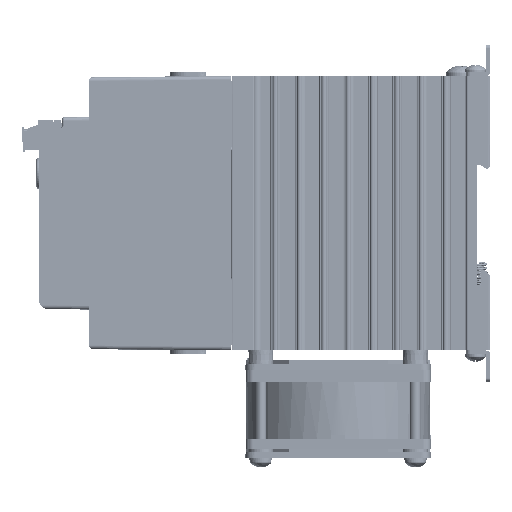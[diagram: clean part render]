
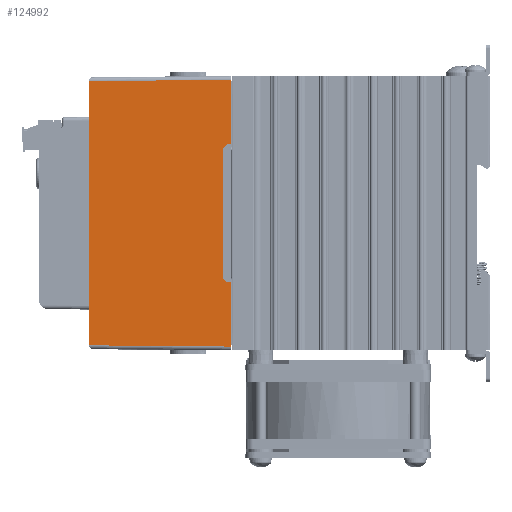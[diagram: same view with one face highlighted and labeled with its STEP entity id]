
A CAD part, left-side view. The second image highlights one B-rep face of the part: STEP entity #124992.
In plain terms, the highlighted planar face has unit normal (-1, 0.009, 0) as drawn and (-1, 0, 0.009) by its records, which use the part's own axes.
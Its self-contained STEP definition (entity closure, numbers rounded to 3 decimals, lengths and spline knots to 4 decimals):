
#6003=PLANE('',#134307);
#11747=FACE_OUTER_BOUND('',#18718,.T.);
#18718=EDGE_LOOP('',(#105314,#105315,#105316,#105317,#105318,#105319,#105320,
#105321,#105322,#105323));
#33200=LINE('',#217305,#46573);
#33995=LINE('',#219275,#47368);
#33998=LINE('',#219280,#47371);
#34000=LINE('',#219285,#47373);
#34006=LINE('',#219296,#47379);
#34010=LINE('',#219304,#47383);
#34018=LINE('',#219324,#47391);
#34019=LINE('',#219326,#47392);
#34020=LINE('',#219328,#47393);
#34021=LINE('',#219329,#47394);
#46573=VECTOR('',#157980,0.3937);
#47368=VECTOR('',#159833,0.3937);
#47371=VECTOR('',#159838,0.3937);
#47373=VECTOR('',#159842,0.3937);
#47379=VECTOR('',#159852,0.3937);
#47383=VECTOR('',#159860,0.3937);
#47391=VECTOR('',#159880,0.3937);
#47392=VECTOR('',#159883,0.3937);
#47393=VECTOR('',#159884,0.3937);
#47394=VECTOR('',#159885,0.3937);
#59070=VERTEX_POINT('',#217302);
#59071=VERTEX_POINT('',#217304);
#59614=VERTEX_POINT('',#219272);
#59615=VERTEX_POINT('',#219274);
#59616=VERTEX_POINT('',#219278);
#59617=VERTEX_POINT('',#219282);
#59618=VERTEX_POINT('',#219284);
#59621=VERTEX_POINT('',#219294);
#59629=VERTEX_POINT('',#219322);
#59630=VERTEX_POINT('',#219327);
#74745=EDGE_CURVE('',#59071,#59070,#33200,.T.);
#75699=EDGE_CURVE('',#59615,#59614,#33995,.T.);
#75702=EDGE_CURVE('',#59614,#59616,#33998,.T.);
#75704=EDGE_CURVE('',#59618,#59617,#34000,.T.);
#75710=EDGE_CURVE('',#59616,#59621,#34006,.T.);
#75714=EDGE_CURVE('',#59621,#59618,#34010,.T.);
#75724=EDGE_CURVE('',#59617,#59629,#34018,.T.);
#75725=EDGE_CURVE('',#59071,#59629,#34019,.T.);
#75726=EDGE_CURVE('',#59630,#59070,#34020,.T.);
#75727=EDGE_CURVE('',#59630,#59615,#34021,.T.);
#105314=ORIENTED_EDGE('',*,*,#75699,.T.);
#105315=ORIENTED_EDGE('',*,*,#75702,.T.);
#105316=ORIENTED_EDGE('',*,*,#75710,.T.);
#105317=ORIENTED_EDGE('',*,*,#75714,.T.);
#105318=ORIENTED_EDGE('',*,*,#75704,.T.);
#105319=ORIENTED_EDGE('',*,*,#75724,.T.);
#105320=ORIENTED_EDGE('',*,*,#75725,.F.);
#105321=ORIENTED_EDGE('',*,*,#74745,.T.);
#105322=ORIENTED_EDGE('',*,*,#75726,.F.);
#105323=ORIENTED_EDGE('',*,*,#75727,.T.);
#124992=ADVANCED_FACE('',(#11747),#6003,.T.);
#134307=AXIS2_PLACEMENT_3D('',#219325,#159881,#159882);
#157980=DIRECTION('',(0.,1.,0.));
#159833=DIRECTION('',(0.009,-0.009,1.));
#159838=DIRECTION('',(0.006,-0.71,0.704));
#159842=DIRECTION('',(-0.009,-0.009,-1.));
#159852=DIRECTION('',(0.,-1.,0.));
#159860=DIRECTION('',(-0.006,-0.71,-0.704));
#159880=DIRECTION('',(0.,-1.,0.));
#159881=DIRECTION('center_axis',(-1.,0.,
0.009));
#159882=DIRECTION('ref_axis',(0.,-1.,0.));
#159883=DIRECTION('',(-0.009,-0.009,-1.));
#159884=DIRECTION('',(0.009,-0.009,1.));
#159885=DIRECTION('',(0.,-1.,0.));
#217302=CARTESIAN_POINT('',(0.0158,3.4342,1.811));
#217304=CARTESIAN_POINT('',(0.0158,0.0658,1.811));
#217305=CARTESIAN_POINT('',(0.0158,3.5,1.811));
#219272=CARTESIAN_POINT('',(0.0005,2.6295,0.0521));
#219274=CARTESIAN_POINT('',(0.,2.63,0.));
#219275=CARTESIAN_POINT('',(0.0001,2.6299,0.0115));
#219278=CARTESIAN_POINT('',(0.0009,2.5762,0.105));
#219280=CARTESIAN_POINT('',(0.0061,1.9795,0.6965));
#219282=CARTESIAN_POINT('',(0.,0.87,0.));
#219284=CARTESIAN_POINT('',(0.0005,0.8705,0.0521));
#219285=CARTESIAN_POINT('',(0.0002,0.8702,0.0223));
#219294=CARTESIAN_POINT('',(0.0009,0.9238,0.105));
#219296=CARTESIAN_POINT('',(0.0009,1.2881,0.105));
#219304=CARTESIAN_POINT('',(-0.0013,0.6646,-0.152));
#219322=CARTESIAN_POINT('',(0.,0.05,0.));
#219324=CARTESIAN_POINT('',(0.,3.5,0.));
#219325=CARTESIAN_POINT('Origin',(0.,0.,0.));
#219326=CARTESIAN_POINT('',(0.0001,0.0501,0.0118));
#219327=CARTESIAN_POINT('',(0.,3.45,0.));
#219328=CARTESIAN_POINT('',(0.0001,3.4499,0.0148));
#219329=CARTESIAN_POINT('',(0.,3.5,0.));
